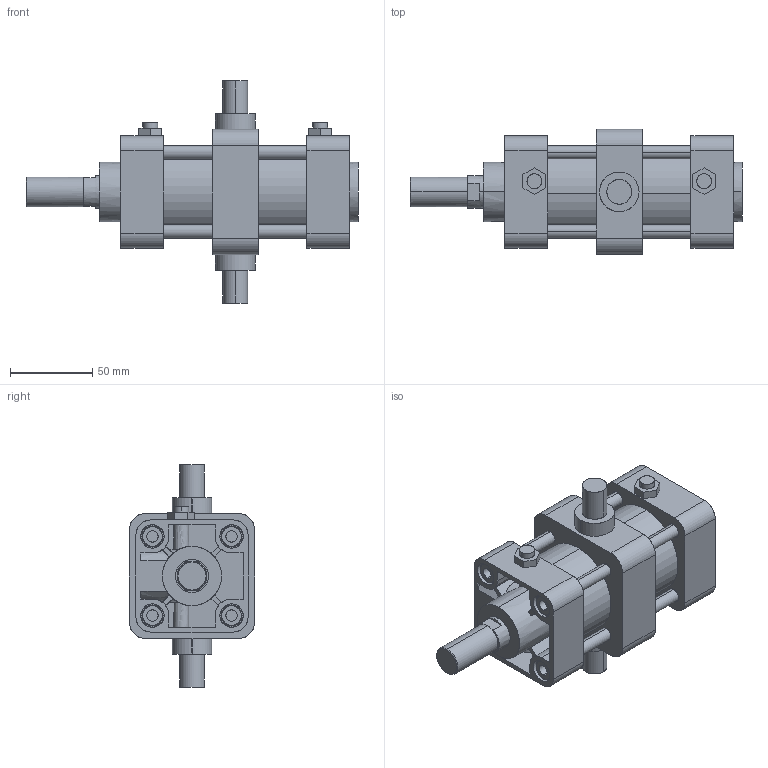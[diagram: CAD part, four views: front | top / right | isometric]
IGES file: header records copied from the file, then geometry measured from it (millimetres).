
Start section: SolidWorks IGES file using analytic representation for surfaces
Global section: file name: C:\Users\Toshiba\Desktop\KG2-50-50-T.IGS; native system: SolidWorks 2014; preprocessor: SolidWorks 2014; author: Toshiba; date: 160401.161327; units: millimetre
Bounding box: 201.5 x 76 x 135 mm (x, y, z)
Surface area: 124384.1 mm2 (no closed solid volume)
Topology: 0 solids, 0 shells, 357 faces, 5748 edges, 5744 vertices
Faces by surface type: bspline 183, revolution 174
